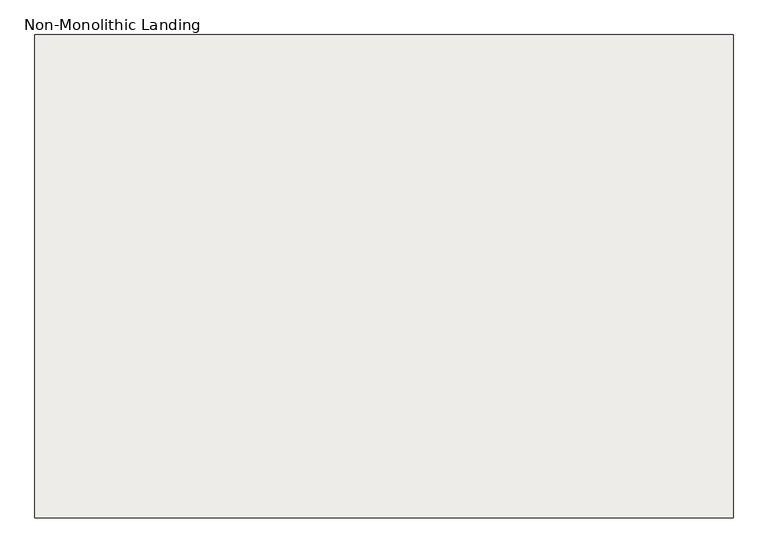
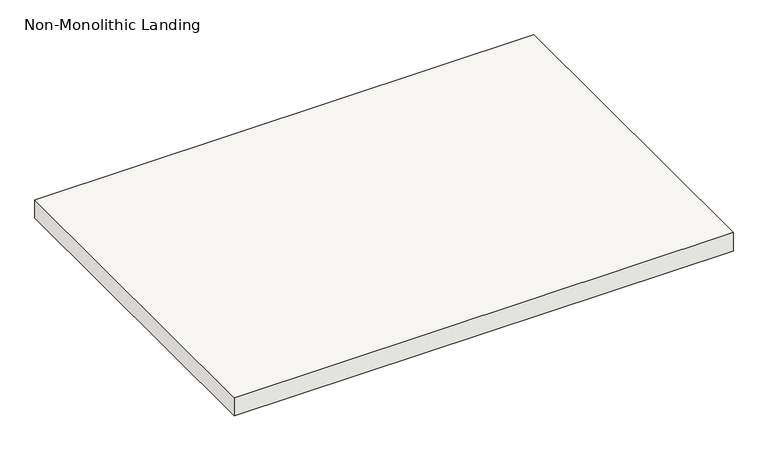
"""IFC4 building model written with IfcOpenShell, lengths in millimetres: slab geometry, Non-Monolithic Landing."""

from ifc_helpers import new_model, si_unit, frame, origin, place, context, project, spatial, polyline, outline, extrude, source, transform, mapped, element, save


def non_monolithic_landing_e4bc7665(model_context):
    return source(origin(), model_context, "Body", "SweptSolid", [
        extrude(outline(polyline([(161298.0311068, -1486.3855758), (162618.8311068, -1486.3855758), (162618.8311068, -2400.7855758), (161298.0311068, -2400.7855758), (161298.0311068, -1486.3855758)])), frame((0.0, 0.0, 2126.3428571), z_axis=(0.0, 0.0, 1.0), x_axis=(1.0, 0.0, 0.0)), (0.0, 0.0, 1.0), 50.8),
    ])


if __name__ == "__main__":
    model = new_model("IFC4")
    model_context = context("Model", 3, world=origin())
    ifc_project = project(units=[si_unit("LENGTHUNIT", "METRE", prefix="MILLI")], contexts=[model_context])
    site = spatial("IfcSite", under=ifc_project)
    building = spatial("IfcBuilding", under=site)
    placement = place(None, origin())
    non_monolithic_landing_shape = non_monolithic_landing_e4bc7665(model_context)
    element("IfcSlab", 1, ObjectType="Non-Monolithic Landing", at=placement, inside=building, context=model_context, shape_type="MappedRepresentation", body=[
        mapped(non_monolithic_landing_shape, transform((0.0, 0.0, 0.0), x_axis=(1.0, 0.0, 0.0), y_axis=(0.0, 1.0, 0.0), z_axis=(0.0, 0.0, 1.0))),
    ])
    save(model, "model.ifc")
